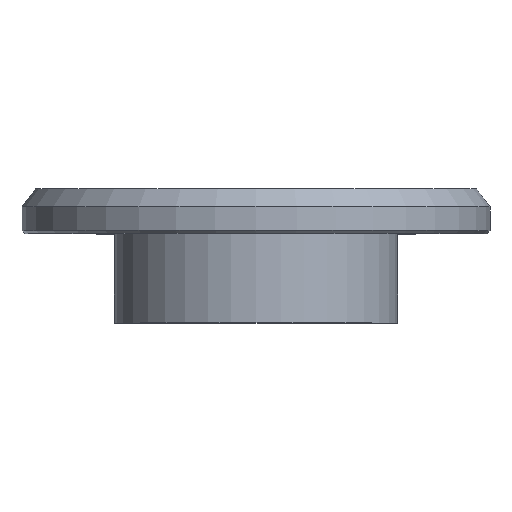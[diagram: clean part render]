
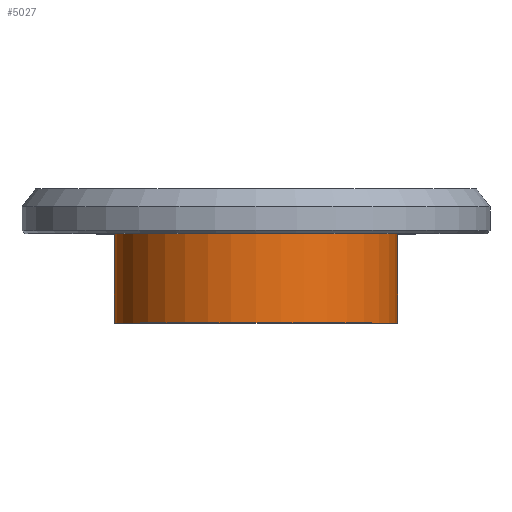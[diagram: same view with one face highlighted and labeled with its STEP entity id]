
A CAD part, top view. The second image highlights one B-rep face of the part: STEP entity #5027.
In plain terms, the highlighted cylindrical face has radius 47.5 mm (diameter 95 mm), a full revolution.
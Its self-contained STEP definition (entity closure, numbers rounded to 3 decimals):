
#140 = PLANE('',#141);
#141 = AXIS2_PLACEMENT_3D('',#142,#143,#144);
#142 = CARTESIAN_POINT('',(0.,-15.,0.));
#143 = DIRECTION('',(0.,1.,0.));
#144 = DIRECTION('',(0.,0.,1.));
#813 = EDGE_CURVE('',#814,#814,#816,.T.);
#814 = VERTEX_POINT('',#815);
#815 = CARTESIAN_POINT('',(47.5,-15.,0.));
#816 = SURFACE_CURVE('',#817,(#822,#833),.PCURVE_S1.);
#817 = CIRCLE('',#818,47.5);
#818 = AXIS2_PLACEMENT_3D('',#819,#820,#821);
#819 = CARTESIAN_POINT('',(0.,-15.,0.));
#820 = DIRECTION('',(0.,-1.,0.));
#821 = DIRECTION('',(1.,0.,0.));
#822 = PCURVE('',#140,#823);
#823 = DEFINITIONAL_REPRESENTATION('',(#824),#832);
#824 = ( BOUNDED_CURVE() B_SPLINE_CURVE(2,(#825,#826,#827,#828,#829,#830
,#831),.UNSPECIFIED.,.T.,.F.) B_SPLINE_CURVE_WITH_KNOTS((1,2,2,2,2,1),(
    -2.094,0.,2.094,4.189,6.283,
8.378),.UNSPECIFIED.) CURVE() GEOMETRIC_REPRESENTATION_ITEM() 
RATIONAL_B_SPLINE_CURVE((1.,0.5,1.,0.5,1.,0.5,1.)) REPRESENTATION_ITEM(
  '') );
#825 = CARTESIAN_POINT('',(0.,47.5));
#826 = CARTESIAN_POINT('',(82.272,47.5));
#827 = CARTESIAN_POINT('',(41.136,-23.75));
#828 = CARTESIAN_POINT('',(0.,-95.));
#829 = CARTESIAN_POINT('',(-41.136,-23.75));
#830 = CARTESIAN_POINT('',(-82.272,47.5));
#831 = CARTESIAN_POINT('',(0.,47.5));
#832 = ( GEOMETRIC_REPRESENTATION_CONTEXT(2) 
PARAMETRIC_REPRESENTATION_CONTEXT() REPRESENTATION_CONTEXT('2D SPACE',''
  ) );
#833 = PCURVE('',#834,#839);
#834 = CYLINDRICAL_SURFACE('',#835,47.5);
#835 = AXIS2_PLACEMENT_3D('',#836,#837,#838);
#836 = CARTESIAN_POINT('',(0.,-15.,0.));
#837 = DIRECTION('',(0.,1.,0.));
#838 = DIRECTION('',(1.,0.,0.));
#839 = DEFINITIONAL_REPRESENTATION('',(#840),#843);
#840 = B_SPLINE_CURVE_WITH_KNOTS('',1,(#841,#842),.UNSPECIFIED.,.F.,.F.,
  (2,2),(0.,6.283),.PIECEWISE_BEZIER_KNOTS.);
#841 = CARTESIAN_POINT('',(0.,0.));
#842 = CARTESIAN_POINT('',(-6.283,0.));
#843 = ( GEOMETRIC_REPRESENTATION_CONTEXT(2) 
PARAMETRIC_REPRESENTATION_CONTEXT() REPRESENTATION_CONTEXT('2D SPACE',''
  ) );
#5027 = ADVANCED_FACE('',(#5028),#834,.T.);
#5028 = FACE_BOUND('',#5029,.F.);
#5029 = EDGE_LOOP('',(#5030,#5051,#5081,#5082));
#5030 = ORIENTED_EDGE('',*,*,#5031,.T.);
#5031 = EDGE_CURVE('',#814,#5032,#5034,.T.);
#5032 = VERTEX_POINT('',#5033);
#5033 = CARTESIAN_POINT('',(47.5,-45.,0.));
#5034 = SEAM_CURVE('',#5035,(#5039,#5045),.PCURVE_S1.);
#5035 = LINE('',#5036,#5037);
#5036 = CARTESIAN_POINT('',(47.5,-15.,0.));
#5037 = VECTOR('',#5038,1.);
#5038 = DIRECTION('',(0.,-1.,0.));
#5039 = PCURVE('',#834,#5040);
#5040 = DEFINITIONAL_REPRESENTATION('',(#5041),#5044);
#5041 = B_SPLINE_CURVE_WITH_KNOTS('',1,(#5042,#5043),.UNSPECIFIED.,.F.,
  .F.,(2,2),(0.,30.),.PIECEWISE_BEZIER_KNOTS.);
#5042 = CARTESIAN_POINT('',(0.,0.));
#5043 = CARTESIAN_POINT('',(0.,-30.));
#5044 = ( GEOMETRIC_REPRESENTATION_CONTEXT(2) 
PARAMETRIC_REPRESENTATION_CONTEXT() REPRESENTATION_CONTEXT('2D SPACE',''
  ) );
#5045 = PCURVE('',#834,#5046);
#5046 = DEFINITIONAL_REPRESENTATION('',(#5047),#5050);
#5047 = B_SPLINE_CURVE_WITH_KNOTS('',1,(#5048,#5049),.UNSPECIFIED.,.F.,
  .F.,(2,2),(0.,30.),.PIECEWISE_BEZIER_KNOTS.);
#5048 = CARTESIAN_POINT('',(-6.283,0.));
#5049 = CARTESIAN_POINT('',(-6.283,-30.));
#5050 = ( GEOMETRIC_REPRESENTATION_CONTEXT(2) 
PARAMETRIC_REPRESENTATION_CONTEXT() REPRESENTATION_CONTEXT('2D SPACE',''
  ) );
#5051 = ORIENTED_EDGE('',*,*,#5052,.T.);
#5052 = EDGE_CURVE('',#5032,#5032,#5053,.T.);
#5053 = SURFACE_CURVE('',#5054,(#5059,#5065),.PCURVE_S1.);
#5054 = CIRCLE('',#5055,47.5);
#5055 = AXIS2_PLACEMENT_3D('',#5056,#5057,#5058);
#5056 = CARTESIAN_POINT('',(0.,-45.,0.));
#5057 = DIRECTION('',(0.,-1.,0.));
#5058 = DIRECTION('',(1.,0.,0.));
#5059 = PCURVE('',#834,#5060);
#5060 = DEFINITIONAL_REPRESENTATION('',(#5061),#5064);
#5061 = B_SPLINE_CURVE_WITH_KNOTS('',1,(#5062,#5063),.UNSPECIFIED.,.F.,
  .F.,(2,2),(0.,6.283),.PIECEWISE_BEZIER_KNOTS.);
#5062 = CARTESIAN_POINT('',(0.,-30.));
#5063 = CARTESIAN_POINT('',(-6.283,-30.));
#5064 = ( GEOMETRIC_REPRESENTATION_CONTEXT(2) 
PARAMETRIC_REPRESENTATION_CONTEXT() REPRESENTATION_CONTEXT('2D SPACE',''
  ) );
#5065 = PCURVE('',#5066,#5071);
#5066 = PLANE('',#5067);
#5067 = AXIS2_PLACEMENT_3D('',#5068,#5069,#5070);
#5068 = CARTESIAN_POINT('',(0.,-45.,0.));
#5069 = DIRECTION('',(0.,1.,0.));
#5070 = DIRECTION('',(0.,0.,1.));
#5071 = DEFINITIONAL_REPRESENTATION('',(#5072),#5080);
#5072 = ( BOUNDED_CURVE() B_SPLINE_CURVE(2,(#5073,#5074,#5075,#5076,
#5077,#5078,#5079),.UNSPECIFIED.,.T.,.F.) B_SPLINE_CURVE_WITH_KNOTS((1,2
    ,2,2,2,1),(-2.094,0.,2.094,4.189,
6.283,8.378),.UNSPECIFIED.) CURVE() 
GEOMETRIC_REPRESENTATION_ITEM() RATIONAL_B_SPLINE_CURVE((1.,0.5,1.,0.5,
1.,0.5,1.)) REPRESENTATION_ITEM('') );
#5073 = CARTESIAN_POINT('',(0.,47.5));
#5074 = CARTESIAN_POINT('',(82.272,47.5));
#5075 = CARTESIAN_POINT('',(41.136,-23.75));
#5076 = CARTESIAN_POINT('',(0.,-95.));
#5077 = CARTESIAN_POINT('',(-41.136,-23.75));
#5078 = CARTESIAN_POINT('',(-82.272,47.5));
#5079 = CARTESIAN_POINT('',(0.,47.5));
#5080 = ( GEOMETRIC_REPRESENTATION_CONTEXT(2) 
PARAMETRIC_REPRESENTATION_CONTEXT() REPRESENTATION_CONTEXT('2D SPACE',''
  ) );
#5081 = ORIENTED_EDGE('',*,*,#5031,.F.);
#5082 = ORIENTED_EDGE('',*,*,#813,.F.);
